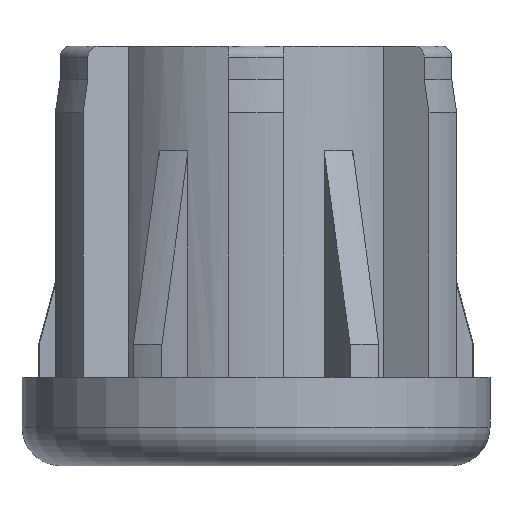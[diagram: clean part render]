
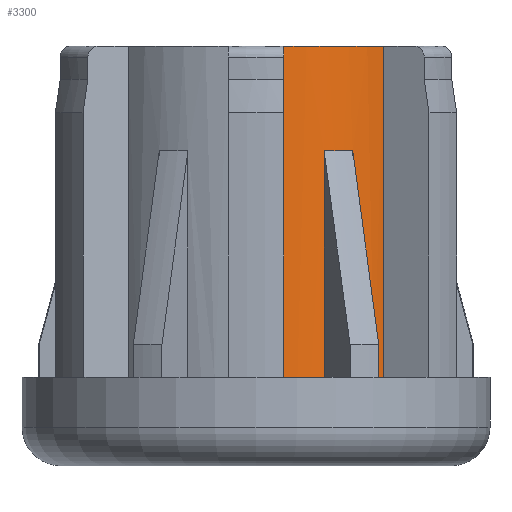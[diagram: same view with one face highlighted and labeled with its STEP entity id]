
A CAD part, front view. The second image highlights one B-rep face of the part: STEP entity #3300.
In plain terms, the highlighted cylindrical face has radius 15 mm (diameter 30 mm), a partial arc.
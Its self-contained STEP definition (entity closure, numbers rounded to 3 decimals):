
#111 = CYLINDRICAL_SURFACE ( 'NONE', #3541, 15. ) ;
#167 = EDGE_CURVE ( 'NONE', #2908, #938, #2751, .T. ) ;
#249 = CIRCLE ( 'NONE', #3100, 15. ) ;
#289 = EDGE_CURVE ( 'NONE', #1266, #811, #438, .T. ) ;
#438 = CIRCLE ( 'NONE', #2830, 15. ) ;
#455 = EDGE_CURVE ( 'NONE', #2821, #938, #883, .T. ) ;
#456 = CARTESIAN_POINT ( 'NONE',  ( 11.559, -9.56, 37.25 ) ) ;
#475 = DIRECTION ( 'NONE',  ( 0., 0., -1. ) ) ;
#486 = CARTESIAN_POINT ( 'NONE',  ( 0., 0., 7.25 ) ) ;
#505 = ORIENTED_EDGE ( 'NONE', *, *, #2100, .T. ) ;
#513 = DIRECTION ( 'NONE',  ( 1., 0., 0. ) ) ;
#556 = DIRECTION ( 'NONE',  ( 0., 0., -1. ) ) ;
#648 = CARTESIAN_POINT ( 'NONE',  ( 8.761, -12.175, 27.791 ) ) ;
#700 = CARTESIAN_POINT ( 'NONE',  ( 0., 0., 7.25 ) ) ;
#710 = DIRECTION ( 'NONE',  ( 1., 0., 0. ) ) ;
#767 = DIRECTION ( 'NONE',  ( 0., 0., -1. ) ) ;
#811 = VERTEX_POINT ( 'NONE', #2268 ) ;
#825 = CARTESIAN_POINT ( 'NONE',  ( 6.163, -13.675, 37.25 ) ) ;
#883 = CIRCLE ( 'NONE', #3652, 15. ) ;
#938 = VERTEX_POINT ( 'NONE', #1506 ) ;
#964 = DIRECTION ( 'NONE',  ( 0., 0., 1. ) ) ;
#965 = LINE ( 'NONE', #3642, #2424 ) ;
#973 = VERTEX_POINT ( 'NONE', #2401 ) ;
#1202 = AXIS2_PLACEMENT_3D ( 'NONE', #486, #3078, #513 ) ;
#1239 = DIRECTION ( 'NONE',  ( 0., 0., -1. ) ) ;
#1249 = DIRECTION ( 'NONE',  ( 1., 0., 0. ) ) ;
#1266 = VERTEX_POINT ( 'NONE', #648 ) ;
#1364 = DIRECTION ( 'NONE',  ( -1., 0., 0. ) ) ;
#1506 = CARTESIAN_POINT ( 'NONE',  ( 11.559, -9.56, 7.25 ) ) ;
#1511 = EDGE_CURVE ( 'NONE', #1266, #2821, #965, .T. ) ;
#1629 = EDGE_LOOP ( 'NONE', ( #3672, #505, #3670, #3144, #3119, #3365, #2967, #3267 ) ) ;
#1664 = VECTOR ( 'NONE', #1239, 1000. ) ;
#1672 = CARTESIAN_POINT ( 'NONE',  ( 0., 0., 27.791 ) ) ;
#1714 = CARTESIAN_POINT ( 'NONE',  ( 6.163, -13.675, 7.25 ) ) ;
#1754 = FACE_OUTER_BOUND ( 'NONE', #1629, .T. ) ;
#1793 = CARTESIAN_POINT ( 'NONE',  ( 0., 0., 37.25 ) ) ;
#2084 = VECTOR ( 'NONE', #475, 1000. ) ;
#2100 = EDGE_CURVE ( 'NONE', #973, #3549, #2249, .T. ) ;
#2156 = CARTESIAN_POINT ( 'NONE',  ( 11.559, -9.56, 37.25 ) ) ;
#2179 = DIRECTION ( 'NONE',  ( 0., 0., 1. ) ) ;
#2249 = LINE ( 'NONE', #2905, #1664 ) ;
#2268 = CARTESIAN_POINT ( 'NONE',  ( 6.163, -13.675, 27.791 ) ) ;
#2400 = EDGE_CURVE ( 'NONE', #811, #3089, #2791, .T. ) ;
#2401 = CARTESIAN_POINT ( 'NONE',  ( 2.5, -14.79, 37.25 ) ) ;
#2424 = VECTOR ( 'NONE', #767, 1000. ) ;
#2644 = CIRCLE ( 'NONE', #1202, 15. ) ;
#2751 = LINE ( 'NONE', #2156, #2084 ) ;
#2791 = LINE ( 'NONE', #825, #3481 ) ;
#2803 = EDGE_CURVE ( 'NONE', #973, #2908, #249, .T. ) ;
#2821 = VERTEX_POINT ( 'NONE', #3610 ) ;
#2830 = AXIS2_PLACEMENT_3D ( 'NONE', #1672, #556, #3428 ) ;
#2905 = CARTESIAN_POINT ( 'NONE',  ( 2.5, -14.79, 37.25 ) ) ;
#2908 = VERTEX_POINT ( 'NONE', #456 ) ;
#2967 = ORIENTED_EDGE ( 'NONE', *, *, #455, .T. ) ;
#3011 = DIRECTION ( 'NONE',  ( 0., 0., 1. ) ) ;
#3078 = DIRECTION ( 'NONE',  ( 0., 0., 1. ) ) ;
#3089 = VERTEX_POINT ( 'NONE', #1714 ) ;
#3090 = CARTESIAN_POINT ( 'NONE',  ( 0., 0., 37.25 ) ) ;
#3100 = AXIS2_PLACEMENT_3D ( 'NONE', #1793, #964, #1249 ) ;
#3119 = ORIENTED_EDGE ( 'NONE', *, *, #289, .F. ) ;
#3144 = ORIENTED_EDGE ( 'NONE', *, *, #2400, .F. ) ;
#3267 = ORIENTED_EDGE ( 'NONE', *, *, #167, .F. ) ;
#3300 = ADVANCED_FACE ( 'NONE', ( #1754 ), #111, .T. ) ;
#3339 = EDGE_CURVE ( 'NONE', #3549, #3089, #2644, .T. ) ;
#3365 = ORIENTED_EDGE ( 'NONE', *, *, #1511, .T. ) ;
#3428 = DIRECTION ( 'NONE',  ( -1., 0., 0. ) ) ;
#3481 = VECTOR ( 'NONE', #3709, 1000. ) ;
#3541 = AXIS2_PLACEMENT_3D ( 'NONE', #3090, #2179, #1364 ) ;
#3549 = VERTEX_POINT ( 'NONE', #3627 ) ;
#3610 = CARTESIAN_POINT ( 'NONE',  ( 8.761, -12.175, 7.25 ) ) ;
#3627 = CARTESIAN_POINT ( 'NONE',  ( 2.5, -14.79, 7.25 ) ) ;
#3642 = CARTESIAN_POINT ( 'NONE',  ( 8.761, -12.175, 37.25 ) ) ;
#3652 = AXIS2_PLACEMENT_3D ( 'NONE', #700, #3011, #710 ) ;
#3670 = ORIENTED_EDGE ( 'NONE', *, *, #3339, .T. ) ;
#3672 = ORIENTED_EDGE ( 'NONE', *, *, #2803, .F. ) ;
#3709 = DIRECTION ( 'NONE',  ( 0., 0., -1. ) ) ;
